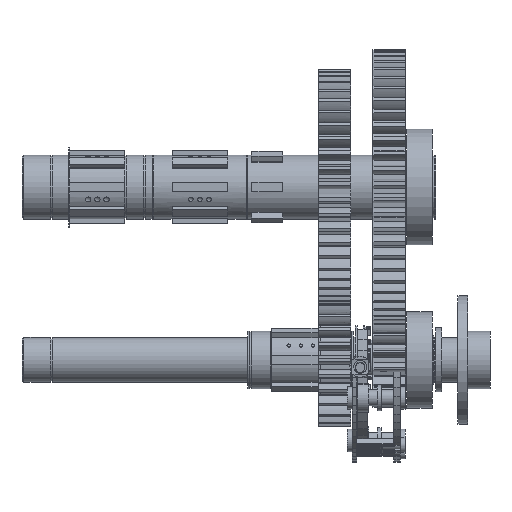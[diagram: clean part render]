
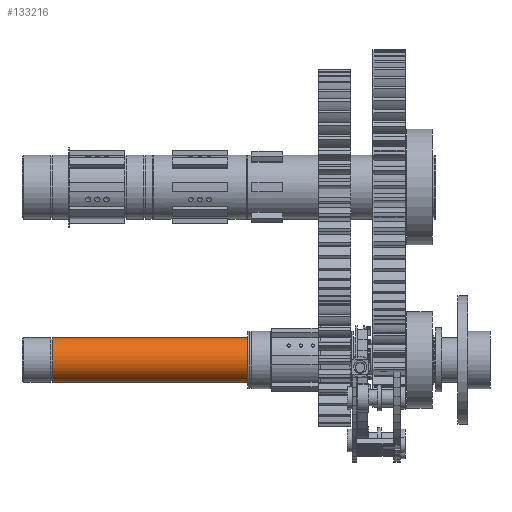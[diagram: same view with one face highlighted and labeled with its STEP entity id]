
A CAD part, front view. The second image highlights one B-rep face of the part: STEP entity #133216.
In plain terms, the highlighted cylindrical face has radius 7 mm (diameter 14 mm), a full revolution.
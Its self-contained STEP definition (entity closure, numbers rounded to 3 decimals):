
#122356 = PLANE('',#122357);
#122357 = AXIS2_PLACEMENT_3D('',#122358,#122359,#122360);
#122358 = CARTESIAN_POINT('',(6.5,-49.893,-53.918));
#122359 = DIRECTION('',(1.,0.,0.));
#122360 = DIRECTION('',(0.,1.,0.));
#126269 = EDGE_CURVE('',#126270,#126270,#126272,.T.);
#126270 = VERTEX_POINT('',#126271);
#126271 = CARTESIAN_POINT('',(6.5,-42.893,-53.918));
#126272 = SURFACE_CURVE('',#126273,(#126278,#126285),.PCURVE_S1.);
#126273 = CIRCLE('',#126274,7.);
#126274 = AXIS2_PLACEMENT_3D('',#126275,#126276,#126277);
#126275 = CARTESIAN_POINT('',(6.5,-49.893,-53.918));
#126276 = DIRECTION('',(1.,0.,0.));
#126277 = DIRECTION('',(0.,1.,0.));
#126278 = PCURVE('',#122356,#126279);
#126279 = DEFINITIONAL_REPRESENTATION('',(#126280),#126284);
#126280 = CIRCLE('',#126281,7.);
#126281 = AXIS2_PLACEMENT_2D('',#126282,#126283);
#126282 = CARTESIAN_POINT('',(0.,0.));
#126283 = DIRECTION('',(1.,0.));
#126284 = ( GEOMETRIC_REPRESENTATION_CONTEXT(2) 
PARAMETRIC_REPRESENTATION_CONTEXT() REPRESENTATION_CONTEXT('2D SPACE',''
  ) );
#126285 = PCURVE('',#126286,#126291);
#126286 = CYLINDRICAL_SURFACE('',#126287,7.);
#126287 = AXIS2_PLACEMENT_3D('',#126288,#126289,#126290);
#126288 = CARTESIAN_POINT('',(-64.,-49.893,-53.918));
#126289 = DIRECTION('',(1.,0.,0.));
#126290 = DIRECTION('',(0.,1.,0.));
#126291 = DEFINITIONAL_REPRESENTATION('',(#126292),#126296);
#126292 = LINE('',#126293,#126294);
#126293 = CARTESIAN_POINT('',(0.,70.5));
#126294 = VECTOR('',#126295,1.);
#126295 = DIRECTION('',(1.,0.));
#126296 = ( GEOMETRIC_REPRESENTATION_CONTEXT(2) 
PARAMETRIC_REPRESENTATION_CONTEXT() REPRESENTATION_CONTEXT('2D SPACE',''
  ) );
#133216 = ADVANCED_FACE('',(#133217),#126286,.T.);
#133217 = FACE_BOUND('',#133218,.T.);
#133218 = EDGE_LOOP('',(#133219,#133248,#133269,#133270));
#133219 = ORIENTED_EDGE('',*,*,#133220,.T.);
#133220 = EDGE_CURVE('',#133221,#133221,#133223,.T.);
#133221 = VERTEX_POINT('',#133222);
#133222 = CARTESIAN_POINT('',(-54.47,-42.893,-53.918));
#133223 = SURFACE_CURVE('',#133224,(#133229,#133236),.PCURVE_S1.);
#133224 = CIRCLE('',#133225,7.);
#133225 = AXIS2_PLACEMENT_3D('',#133226,#133227,#133228);
#133226 = CARTESIAN_POINT('',(-54.47,-49.893,-53.918));
#133227 = DIRECTION('',(1.,0.,0.));
#133228 = DIRECTION('',(0.,1.,0.));
#133229 = PCURVE('',#126286,#133230);
#133230 = DEFINITIONAL_REPRESENTATION('',(#133231),#133235);
#133231 = LINE('',#133232,#133233);
#133232 = CARTESIAN_POINT('',(0.,9.53));
#133233 = VECTOR('',#133234,1.);
#133234 = DIRECTION('',(1.,0.));
#133235 = ( GEOMETRIC_REPRESENTATION_CONTEXT(2) 
PARAMETRIC_REPRESENTATION_CONTEXT() REPRESENTATION_CONTEXT('2D SPACE',''
  ) );
#133236 = PCURVE('',#133237,#133242);
#133237 = PLANE('',#133238);
#133238 = AXIS2_PLACEMENT_3D('',#133239,#133240,#133241);
#133239 = CARTESIAN_POINT('',(-54.47,-49.893,-53.918));
#133240 = DIRECTION('',(1.,0.,0.));
#133241 = DIRECTION('',(0.,1.,0.));
#133242 = DEFINITIONAL_REPRESENTATION('',(#133243),#133247);
#133243 = CIRCLE('',#133244,7.);
#133244 = AXIS2_PLACEMENT_2D('',#133245,#133246);
#133245 = CARTESIAN_POINT('',(0.,0.));
#133246 = DIRECTION('',(1.,0.));
#133247 = ( GEOMETRIC_REPRESENTATION_CONTEXT(2) 
PARAMETRIC_REPRESENTATION_CONTEXT() REPRESENTATION_CONTEXT('2D SPACE',''
  ) );
#133248 = ORIENTED_EDGE('',*,*,#133249,.T.);
#133249 = EDGE_CURVE('',#133221,#126270,#133250,.T.);
#133250 = SEAM_CURVE('',#133251,(#133255,#133262),.PCURVE_S1.);
#133251 = LINE('',#133252,#133253);
#133252 = CARTESIAN_POINT('',(-64.,-42.893,-53.918));
#133253 = VECTOR('',#133254,1.);
#133254 = DIRECTION('',(1.,0.,0.));
#133255 = PCURVE('',#126286,#133256);
#133256 = DEFINITIONAL_REPRESENTATION('',(#133257),#133261);
#133257 = LINE('',#133258,#133259);
#133258 = CARTESIAN_POINT('',(6.283,0.));
#133259 = VECTOR('',#133260,1.);
#133260 = DIRECTION('',(0.,1.));
#133261 = ( GEOMETRIC_REPRESENTATION_CONTEXT(2) 
PARAMETRIC_REPRESENTATION_CONTEXT() REPRESENTATION_CONTEXT('2D SPACE',''
  ) );
#133262 = PCURVE('',#126286,#133263);
#133263 = DEFINITIONAL_REPRESENTATION('',(#133264),#133268);
#133264 = LINE('',#133265,#133266);
#133265 = CARTESIAN_POINT('',(0.,0.));
#133266 = VECTOR('',#133267,1.);
#133267 = DIRECTION('',(0.,1.));
#133268 = ( GEOMETRIC_REPRESENTATION_CONTEXT(2) 
PARAMETRIC_REPRESENTATION_CONTEXT() REPRESENTATION_CONTEXT('2D SPACE',''
  ) );
#133269 = ORIENTED_EDGE('',*,*,#126269,.F.);
#133270 = ORIENTED_EDGE('',*,*,#133249,.F.);
